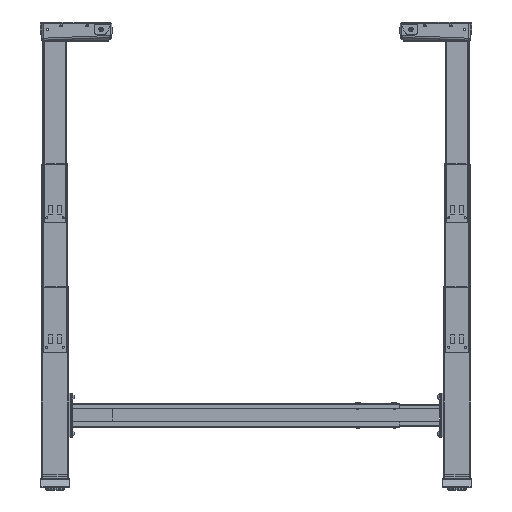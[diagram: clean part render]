
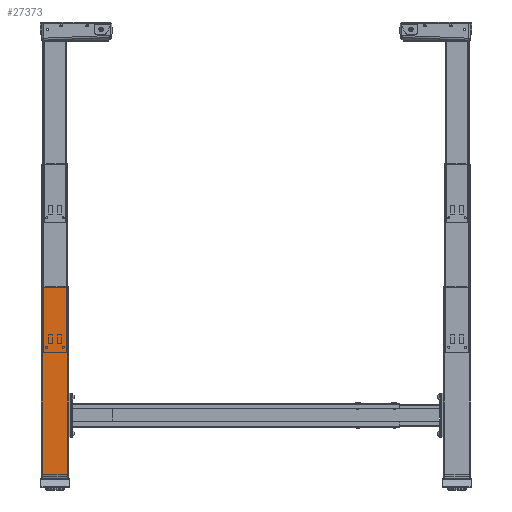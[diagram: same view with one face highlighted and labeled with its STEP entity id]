
A CAD part, front view. The second image highlights one B-rep face of the part: STEP entity #27373.
In plain terms, the highlighted planar face has unit normal (0, -1, 0) as drawn and (0, 1, 0) by its records, which use the part's own axes.
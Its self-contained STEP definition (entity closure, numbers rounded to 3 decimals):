
#1465=PLANE('',#29487);
#3947=ORIENTED_EDGE('',*,*,#11909,.T.);
#3948=ORIENTED_EDGE('',*,*,#11916,.F.);
#3949=ORIENTED_EDGE('',*,*,#11917,.F.);
#3950=ORIENTED_EDGE('',*,*,#11918,.F.);
#11909=EDGE_CURVE('',#15931,#15929,#18616,.T.);
#11916=EDGE_CURVE('',#15937,#15929,#18620,.T.);
#11917=EDGE_CURVE('',#15938,#15937,#18621,.T.);
#11918=EDGE_CURVE('',#15931,#15938,#18622,.T.);
#15929=VERTEX_POINT('',#40438);
#15931=VERTEX_POINT('',#40441);
#15937=VERTEX_POINT('',#40455);
#15938=VERTEX_POINT('',#40457);
#18616=LINE('',#40440,#20951);
#18620=LINE('',#40454,#20955);
#18621=LINE('',#40456,#20956);
#18622=LINE('',#40458,#20957);
#20951=VECTOR('',#32702,1000.);
#20955=VECTOR('',#32714,1000.);
#20956=VECTOR('',#32715,1000.);
#20957=VECTOR('',#32716,1000.);
#23258=EDGE_LOOP('',(#3947,#3948,#3949,#3950));
#25067=FACE_BOUND('',#23258,.T.);
#27373=ADVANCED_FACE('',(#25067),#1465,.T.);
#29487=AXIS2_PLACEMENT_3D('',#40453,#32712,#32713);
#32702=DIRECTION('',(1.,0.,0.));
#32712=DIRECTION('',(0.,1.,0.));
#32713=DIRECTION('',(-1.,0.,0.));
#32714=DIRECTION('',(0.,0.,1.));
#32715=DIRECTION('',(1.,0.,0.));
#32716=DIRECTION('',(0.,0.,-1.));
#40438=CARTESIAN_POINT('',(104.893,475.9,579.9));
#40440=CARTESIAN_POINT('',(35.893,475.9,579.9));
#40441=CARTESIAN_POINT('',(35.893,475.9,579.9));
#40453=CARTESIAN_POINT('',(70.393,475.9,320.9));
#40454=CARTESIAN_POINT('',(104.893,475.9,61.9));
#40455=CARTESIAN_POINT('',(104.893,475.9,61.9));
#40456=CARTESIAN_POINT('',(35.893,475.9,61.9));
#40457=CARTESIAN_POINT('',(35.893,475.9,61.9));
#40458=CARTESIAN_POINT('',(35.893,475.9,579.9));
